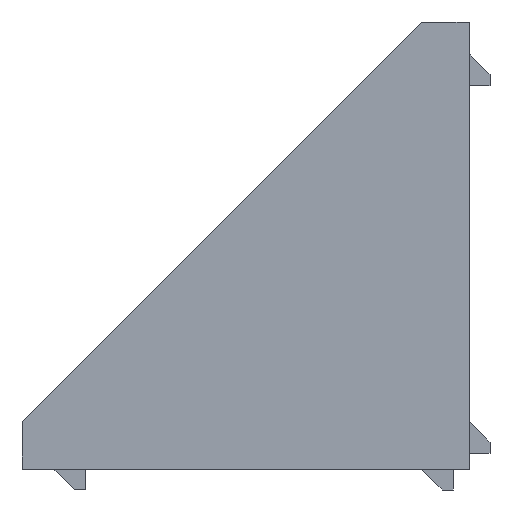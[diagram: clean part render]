
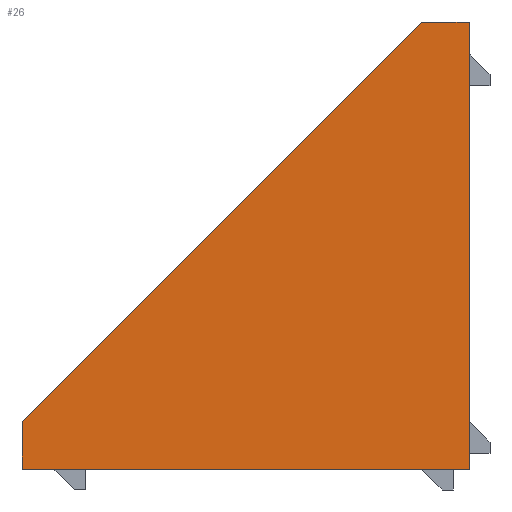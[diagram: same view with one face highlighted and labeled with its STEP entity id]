
A CAD part, left-side view. The second image highlights one B-rep face of the part: STEP entity #26.
In plain terms, the highlighted planar face has unit normal (-1, 0, 0).
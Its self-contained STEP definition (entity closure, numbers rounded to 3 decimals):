
#10 = LINE ( 'NONE', #1054, #1046 ) ;
#26 = ADVANCED_FACE ( 'NONE', ( #431 ), #292, .F. ) ;
#30 = VECTOR ( 'NONE', #688, 1000. ) ;
#40 = ORIENTED_EDGE ( 'NONE', *, *, #438, .F. ) ;
#58 = CARTESIAN_POINT ( 'NONE',  ( -10., -14., -14. ) ) ;
#81 = ORIENTED_EDGE ( 'NONE', *, *, #377, .F. ) ;
#142 = CARTESIAN_POINT ( 'NONE',  ( -10., 14., -11. ) ) ;
#206 = DIRECTION ( 'NONE',  ( 0., 0., -1. ) ) ;
#247 = LINE ( 'NONE', #593, #1287 ) ;
#262 = AXIS2_PLACEMENT_3D ( 'NONE', #519, #289, #206 ) ;
#289 = DIRECTION ( 'NONE',  ( 1., 0., 0. ) ) ;
#292 = PLANE ( 'NONE',  #262 ) ;
#355 = CARTESIAN_POINT ( 'NONE',  ( -10., -11., 14. ) ) ;
#377 = EDGE_CURVE ( 'NONE', #1270, #987, #586, .T. ) ;
#431 = FACE_OUTER_BOUND ( 'NONE', #639, .T. ) ;
#438 = EDGE_CURVE ( 'NONE', #987, #707, #247, .T. ) ;
#440 = CARTESIAN_POINT ( 'NONE',  ( -10., -14., -14. ) ) ;
#454 = EDGE_CURVE ( 'NONE', #794, #707, #761, .T. ) ;
#469 = CARTESIAN_POINT ( 'NONE',  ( -10., 14., -14. ) ) ;
#514 = CARTESIAN_POINT ( 'NONE',  ( -10., -11., 14. ) ) ;
#519 = CARTESIAN_POINT ( 'NONE',  ( -10., 0., 0. ) ) ;
#522 = LINE ( 'NONE', #1069, #729 ) ;
#586 = LINE ( 'NONE', #58, #30 ) ;
#593 = CARTESIAN_POINT ( 'NONE',  ( -10., 14., -14. ) ) ;
#639 = EDGE_LOOP ( 'NONE', ( #1243, #1001, #40, #81, #1131 ) ) ;
#688 = DIRECTION ( 'NONE',  ( 0., 1., 0. ) ) ;
#707 = VERTEX_POINT ( 'NONE', #142 ) ;
#708 = DIRECTION ( 'NONE',  ( 0., -1., 0. ) ) ;
#728 = EDGE_CURVE ( 'NONE', #1106, #1270, #522, .T. ) ;
#729 = VECTOR ( 'NONE', #865, 1000. ) ;
#761 = LINE ( 'NONE', #514, #1064 ) ;
#794 = VERTEX_POINT ( 'NONE', #355 ) ;
#821 = CARTESIAN_POINT ( 'NONE',  ( -10., -14., 14. ) ) ;
#865 = DIRECTION ( 'NONE',  ( 0., 0., -1. ) ) ;
#987 = VERTEX_POINT ( 'NONE', #469 ) ;
#1001 = ORIENTED_EDGE ( 'NONE', *, *, #454, .T. ) ;
#1046 = VECTOR ( 'NONE', #708, 1000. ) ;
#1054 = CARTESIAN_POINT ( 'NONE',  ( -10., -14., 14. ) ) ;
#1064 = VECTOR ( 'NONE', #1220, 1000. ) ;
#1069 = CARTESIAN_POINT ( 'NONE',  ( -10., -14., -14. ) ) ;
#1106 = VERTEX_POINT ( 'NONE', #821 ) ;
#1131 = ORIENTED_EDGE ( 'NONE', *, *, #728, .F. ) ;
#1220 = DIRECTION ( 'NONE',  ( 0., 0.707, -0.707 ) ) ;
#1243 = ORIENTED_EDGE ( 'NONE', *, *, #1292, .F. ) ;
#1270 = VERTEX_POINT ( 'NONE', #440 ) ;
#1287 = VECTOR ( 'NONE', #1305, 1000. ) ;
#1292 = EDGE_CURVE ( 'NONE', #794, #1106, #10, .T. ) ;
#1305 = DIRECTION ( 'NONE',  ( 0., 0., 1. ) ) ;
